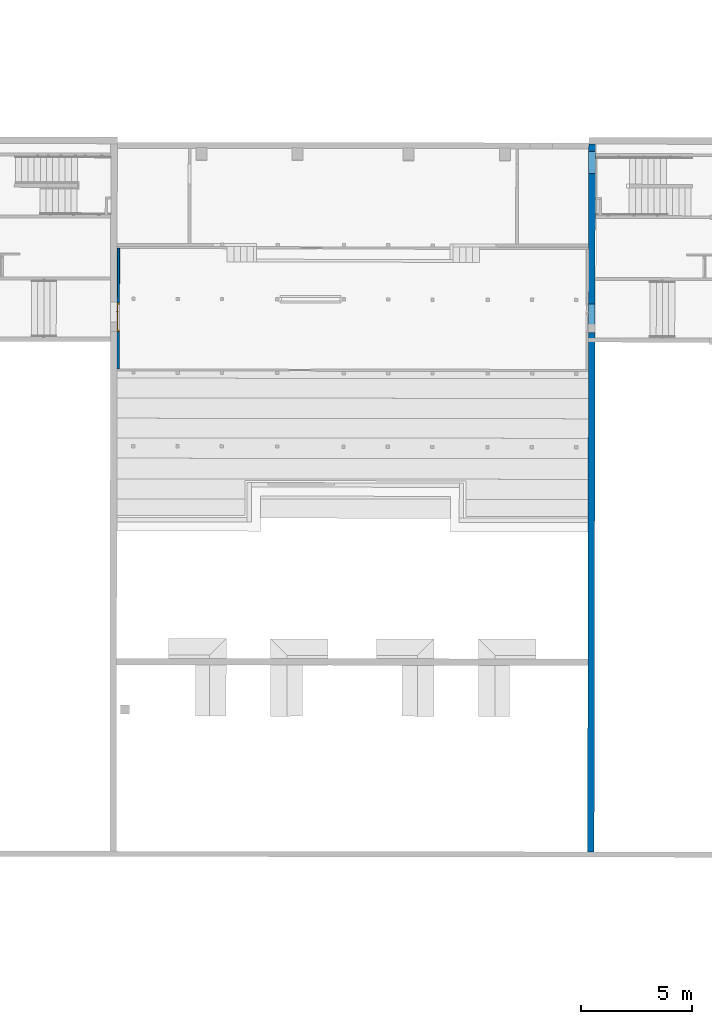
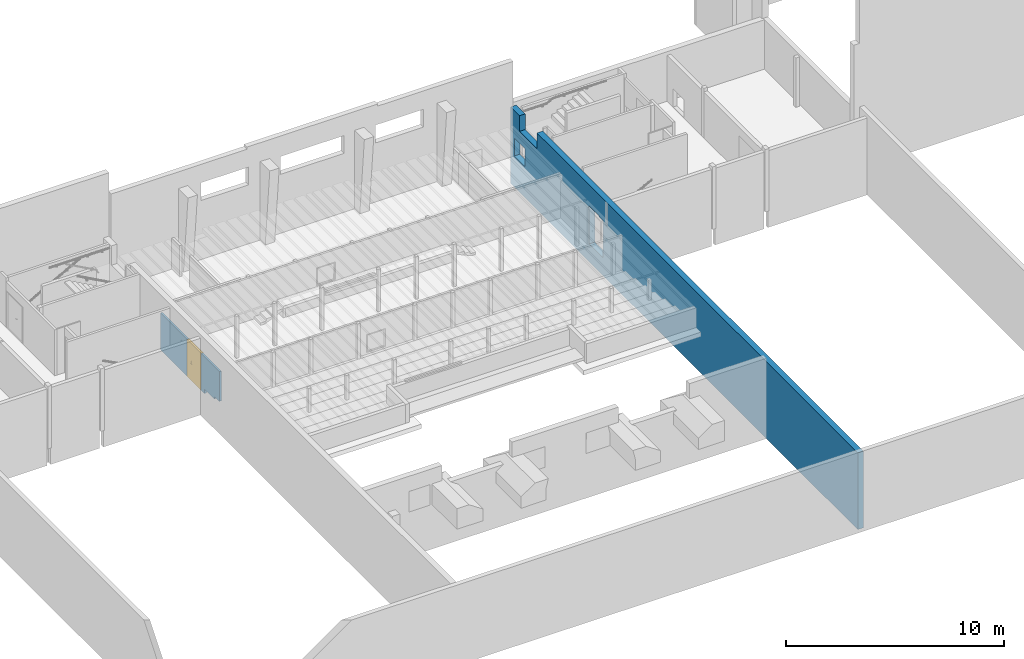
# One storey, part 13 of 24: 2 walls, 1 door, 1 opening.
"""IFC2X3 building model written with IfcOpenShell, lengths in metres."""

from ifc_helpers import new_model, entity, si_unit, converted_unit, derived_unit, direction, frame, frame_2d, origin, place, context, subcontext, project, spatial, rectangle, extrude, faceted_brep, source, transform, mapped, material, material_list, layer, layer_set, type_object, type_shapes, element, fill, save


model = new_model("IFC2X3")

# Units and contexts
model_context = context("Model", 3, precision=1e-05, world=origin(), true_north=direction((6.123233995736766e-17, 1.0)))
body_context = subcontext(model_context, "Body", "Model", "MODEL_VIEW")
ifc_project = project(units=[si_unit("LENGTHUNIT", "METRE"), si_unit("AREAUNIT", "SQUARE_METRE"), converted_unit("PLANEANGLEUNIT", "DEGREE", entity("IfcPlaneAngleMeasure", 0.017453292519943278), si_unit("PLANEANGLEUNIT", "RADIAN"), dimensions=[0, 0, 0, 0, 0, 0, 0]), derived_unit("THERMALTRANSMITTANCEUNIT", [(si_unit("MASSUNIT", "GRAM", prefix="KILO"), 1), (si_unit("THERMODYNAMICTEMPERATUREUNIT", "KELVIN"), -1), (si_unit("TIMEUNIT", "SECOND"), -3)])], contexts=[model_context])

# Site, building, storey
site_placement = place(None, frame((1253.6752467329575, 2072.143113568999, 91.49999999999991), z_axis=(0.0, 0.0, 1.0), x_axis=(0.7237211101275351, 0.6900925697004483, 0.0)))
site = spatial("IfcSite", under=ifc_project, at=site_placement, Name="Surface", CompositionType="ELEMENT")
building_placement = place(site_placement, origin())
building = spatial("IfcBuilding", under=site, at=building_placement, CompositionType="ELEMENT")
storey_placement = place(building_placement, frame((0.0, 0.0, -7.049999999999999)))
storey = spatial("IfcBuildingStorey", under=building, at=storey_placement, Name="R-1", CompositionType="ELEMENT", Elevation=-7.049999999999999)

# Wall
ifc_material_1 = material(Name="OMD_Béton blanc")
ifc_layer_1 = layer(ifc_material_1, 0.29999999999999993)
ifc_layer_set_1 = layer_set([ifc_layer_1], Name="Mur de base:MUR 30")
wall_type_1 = type_object("IfcWallType", Name="Mur de base:MUR 30", PredefinedType="STANDARD", material=ifc_layer_set_1)
wall_1_placement = place(storey_placement, frame((191.5584132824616, 3.095780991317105, -1.0), z_axis=(0.0, 0.0, 1.0), x_axis=(-0.6913353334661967, -0.7225340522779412, 0.0)))
element("IfcWall", 1, at=wall_1_placement, inside=storey, type_object=wall_type_1, Name="Mur de base:MUR 30", ObjectType="Mur de base:MUR 30", context=body_context, shape_type="Brep", body=[
    faceted_brep([(0.0, -0.14999999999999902, 0.0), (23.247325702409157, -0.15000000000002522, 0.0), (23.547325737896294, -0.14999999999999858, 0.0), (31.957326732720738, -0.15000000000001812, 0.0), (31.957326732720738, -0.15000000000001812, 4.299999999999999), (2.410191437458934, -0.150000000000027, 4.299999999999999), (2.410191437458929, -0.15000000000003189, 3.42), (0.8202097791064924, -0.15000000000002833, 3.42), (0.8202097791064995, -0.15000000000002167, 4.299999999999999), (0.0, -0.14999999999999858, 4.299999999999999), (8.509855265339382, -0.15000000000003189, 3.0850000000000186), (8.509855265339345, -0.1499999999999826, 1.0), (8.134855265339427, -0.15000000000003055, 1.0), (7.574855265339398, -0.15000000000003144, 1.0), (7.219855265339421, -0.15000000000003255, 1.0), (7.2198552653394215, -0.15000000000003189, 3.1340000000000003), (8.134855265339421, -0.15000000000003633, 3.1340000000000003), (8.13485526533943, -0.15000000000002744, 3.0850000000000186), (1.3371080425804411, -0.15000000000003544, 2.75), (1.3371080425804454, -0.15000000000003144, 1.7499999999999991), (0.33710804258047, -0.15000000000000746, 1.7499999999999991), (0.33710804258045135, -0.15000000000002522, 2.75), (31.957180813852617, 0.14999999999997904, 0.0), (0.00026584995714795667, 0.14999999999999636, 0.0), (0.0002658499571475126, 0.14999999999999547, 4.299999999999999), (0.820209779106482, 0.14999999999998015, 4.299999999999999), (0.8202097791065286, 0.1499999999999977, 3.42), (2.410191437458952, 0.1499999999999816, 3.42), (2.4101914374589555, 0.14999999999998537, 4.299999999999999), (31.957180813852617, 0.14999999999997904, 4.299999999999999), (8.509855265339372, 0.14999999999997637, 1.0), (8.509855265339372, 0.14999999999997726, 3.0850000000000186), (8.13485526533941, 0.15000000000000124, 3.0850000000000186), (8.134855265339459, 0.14999999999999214, 3.1340000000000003), (7.219855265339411, 0.15000000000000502, 3.1340000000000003), (7.219855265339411, 0.15000000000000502, 1.0), (7.574855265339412, 0.15000000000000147, 1.0), (8.13485526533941, 0.15000000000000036, 1.0), (1.3371080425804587, 0.15000000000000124, 1.7499999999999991), (1.337108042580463, 0.15000000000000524, 2.75), (0.33710804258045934, 0.15000000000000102, 2.75), (0.33710804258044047, 0.15000000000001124, 1.7499999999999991)], [[[0, 1, 2, 3, 4, 5, 6, 7, 8, 9], [10, 11, 12, 13, 14, 15, 16, 17], [18, 19, 20, 21]], [[22, 23, 24, 25, 26, 27, 28, 29], [30, 31, 32, 33, 34, 35, 36, 37], [38, 39, 40, 41]], [[4, 29, 28, 5]], [[3, 2, 1, 0, 23, 22]], [[4, 3, 22, 29]], [[27, 6, 5, 28]], [[7, 26, 25, 8]], [[6, 27, 26, 7]], [[31, 10, 17, 32]], [[10, 31, 30, 11]], [[11, 30, 37, 36, 35, 14, 13, 12]], [[16, 33, 32, 17]], [[14, 35, 34, 15]], [[33, 16, 15, 34]], [[9, 24, 23, 0]], [[18, 39, 38, 19]], [[19, 38, 41, 20]], [[20, 41, 40, 21]], [[39, 18, 21, 40]], [[24, 9, 8, 25]]]),
])

# Wall, opening, door
ifc_material_2 = material(Name="OMD_Cloison 100mm CF1h")
ifc_layer_2 = layer(ifc_material_2, 0.1)
ifc_layer_set_2 = layer_set([ifc_layer_2], Name="Mur de base:Cloison 100mm CF1h")
wall_type_2 = type_object("IfcWallType", Name="Mur de base:Cloison 100mm CF1h", PredefinedType="STANDARD", material=ifc_layer_set_2)
wall_2_placement = place(storey_placement, frame((172.82909930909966, 14.439826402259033, 0.0), z_axis=(0.0, 0.0, 1.0), x_axis=(-0.6919753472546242, -0.7219211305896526, 0.0)))
wall_2 = element("IfcWall", 2, at=wall_2_placement, inside=storey, type_object=wall_type_2, Name="Mur de base:Cloison 100mm CF1h", ObjectType="Mur de base:Cloison 100mm CF1h", context=body_context, shape_type="Brep", body=[
    faceted_brep([(0.0, -0.04999999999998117, 2.06199999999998), (0.0, -0.04999999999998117, 0.0), (2.469999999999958, -0.04999999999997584, 0.0), (2.469999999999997, -0.049999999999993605, 2.06199999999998), (2.4700000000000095, 0.04999999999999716, 0.0), (2.470000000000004, 0.05000000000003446, 2.06199999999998), (0.0, 0.05000000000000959, 2.06199999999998), (0.0, 0.050000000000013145, 0.0)], [[[0, 1, 2, 3]], [[3, 2, 4, 5]], [[1, 0, 6, 7]], [[1, 7, 4, 2]], [[6, 0, 3, 5]], [[7, 6, 5, 4]]]),
    faceted_brep([(5.4322327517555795, 0.05000000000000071, 2.06199999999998), (5.4322327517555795, 0.05000000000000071, 0.39523033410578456), (4.969361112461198, 0.05000000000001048, 0.39566373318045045), (4.969230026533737, 0.0500000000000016, 0.2556637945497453), (4.048519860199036, 0.05000000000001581, 0.2565258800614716), (4.048279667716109, 0.0500000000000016, 0.0), (3.7400000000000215, 0.05000000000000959, 0.0), (3.7400000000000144, 0.05000000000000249, 2.06199999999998), (5.432370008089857, -0.05000000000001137, 2.06199999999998), (5.432370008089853, -0.0500000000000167, 0.395230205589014), (3.7400000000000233, -0.05000000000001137, 0.0), (3.740000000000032, -0.05000000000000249, 2.06199999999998), (4.048519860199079, -0.04999999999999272, 0.2565258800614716), (4.048279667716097, -0.04999999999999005, 0.0), (4.969230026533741, -0.05000000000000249, 0.2556637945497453), (4.969361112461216, -0.04999999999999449, 0.39566373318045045)], [[[0, 1, 2, 3, 4, 5, 6, 7]], [[8, 9, 1, 0]], [[10, 11, 7, 6]], [[12, 13, 5, 4]], [[14, 12, 4, 3]], [[15, 14, 3, 2]], [[9, 15, 2, 1]], [[8, 0, 7, 11]], [[5, 13, 10, 6]], [[9, 8, 11, 10, 13, 12, 14, 15]]]),
])
opening_placement = place(wall_2_placement, frame((3.7399999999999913, 0.050000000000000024, 0.0)))
opening = element("IfcOpeningElement", 3, at=opening_placement, cuts=wall_2, Name="Tierce (R):1.20m x 2.04m:1", ObjectType="Opening", context=body_context, shape_type="SweptSolid", body=[
    extrude(rectangle(XDim=2.0749999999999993, YDim=1.2699999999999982, at=frame_2d((1.0374999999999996, 0.6349999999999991), x_axis=(1.0, 0.0))), frame((0.0, 0.0, 0.0), z_axis=(0.0, -1.0, 0.0), x_axis=(0.0, 0.0, 1.0)), (0.0, 0.0, 1.0), 0.09999999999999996),
])
ifc_material_3 = material(Name="Porte - Poignée")
ifc_material_4 = material(Name="OMD_RAL1032")
ifc_material_list = material_list([ifc_material_3, ifc_material_4])
door_style = type_object("IfcDoorStyle", Name="Tierce (R):1.20m x 2.04m", ConstructionType="NOTDEFINED", OperationType="NOTDEFINED", ParameterTakesPrecedence=False, Sizeable=False, material=ifc_material_list)
shared_shape = source(origin(), body_context, "Body", "Brep", [
    faceted_brep([(0.3879747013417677, 0.036999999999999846, 1.0077804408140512), (0.3839999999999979, 0.036999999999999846, 1.0069999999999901), (0.38399999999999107, 0.036999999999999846, 0.9929999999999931), (0.3879747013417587, 0.036999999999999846, 0.9922195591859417), (0.39202529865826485, 0.036999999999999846, 0.9922195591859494), (0.3960000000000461, 0.036999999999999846, 0.9930000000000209), (0.39600000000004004, 0.036999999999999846, 1.0069999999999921), (0.39202529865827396, 0.036999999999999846, 1.0077804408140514), (0.3960000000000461, 0.05948520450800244, 0.9930000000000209), (0.39600000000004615, 0.059485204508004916, 1.0069999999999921), (0.3920252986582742, 0.061131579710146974, 1.0077804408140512), (0.4058389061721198, 0.07494518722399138, 1.0077804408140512), (0.40416109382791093, 0.07899578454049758, 1.0077804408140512), (0.38797470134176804, 0.062809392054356, 1.0077804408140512), (0.49568474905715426, 0.06846731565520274, 1.0077804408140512), (0.4985489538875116, 0.07133152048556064, 1.007780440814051), (0.49088468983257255, 0.07899578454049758, 1.007780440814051), (0.48920687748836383, 0.07494518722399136, 1.0077804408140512), (0.3839999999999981, 0.06445576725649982, 1.0069999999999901), (0.38399999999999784, 0.06445576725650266, 0.9929999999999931), (0.38797470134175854, 0.06280939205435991, 0.9922195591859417), (0.404161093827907, 0.07899578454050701, 0.9922195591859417), (0.4058389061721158, 0.07494518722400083, 0.9922195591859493), (0.39202529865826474, 0.06113157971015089, 0.9922195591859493), (0.49854895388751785, 0.07133152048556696, 0.9922195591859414), (0.49568474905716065, 0.0684673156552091, 0.9922195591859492), (0.4892068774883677, 0.0749451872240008, 0.9922195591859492), (0.4908846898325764, 0.078995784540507, 0.9922195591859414), (0.40748528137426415, 0.0709704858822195, 0.9930000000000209), (0.40748528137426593, 0.07097048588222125, 1.0069999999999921), (0.4025147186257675, 0.08297048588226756, 1.0069999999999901), (0.4025147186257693, 0.08297048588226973, 0.9929999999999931), (0.447522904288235, 0.0709704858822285, 0.9930000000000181), (0.48756050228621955, 0.0709704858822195, 0.9930000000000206), (0.48756050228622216, 0.07097048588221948, 1.006999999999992), (0.4475228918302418, 0.07097048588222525, 1.006999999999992), (0.44752289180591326, 0.07712492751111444, 1.0078781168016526), (0.492531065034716, 0.0829704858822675, 1.00699999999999), (0.452600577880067, 0.08297048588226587, 1.0069999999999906), (0.4925310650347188, 0.08297048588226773, 0.9929999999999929), (0.4424452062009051, 0.0829704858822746, 0.992999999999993), (0.4475228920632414, 0.07712492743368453, 0.992121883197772), (0.4928742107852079, 0.06565677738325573, 0.9930000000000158), (0.501359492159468, 0.07414205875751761, 0.9929999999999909), (0.5013594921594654, 0.07414205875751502, 1.006999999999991), (0.49287421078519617, 0.06565677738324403, 1.00699999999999)], [[[0, 1, 2, 3, 4, 5, 6, 7]], [[6, 5, 8, 9]], [[9, 10, 7, 6]], [[10, 11, 12, 13, 0, 7]], [[14, 15, 16, 17]], [[13, 18, 1, 0]], [[2, 1, 18, 19]], [[19, 20, 3, 2]], [[20, 21, 22, 23, 4, 3]], [[24, 25, 26, 27]], [[23, 8, 5, 4]], [[9, 8, 28, 29]], [[29, 11, 10, 9]], [[12, 30, 18, 13]], [[19, 18, 30, 31]], [[31, 21, 20, 19]], [[22, 28, 8, 23]], [[29, 28, 32, 33, 34, 35]], [[11, 35, 36]], [[16, 37, 38]], [[30, 12, 38]], [[38, 12, 36]], [[36, 35, 17]], [[17, 16, 36]], [[35, 11, 29]], [[34, 17, 35]], [[11, 36, 12]], [[38, 36, 16]], [[31, 30, 38, 37, 39, 40]], [[40, 41, 21]], [[41, 40, 27]], [[21, 31, 40]], [[39, 27, 40]], [[41, 32, 22]], [[22, 21, 41]], [[26, 32, 41]], [[28, 22, 32]], [[32, 26, 33]], [[26, 41, 27]], [[42, 25, 24, 43, 44, 15, 14, 45]], [[34, 33, 42, 45]], [[45, 14, 17, 34]], [[15, 44, 37, 16]], [[39, 37, 44, 43]], [[43, 24, 27, 39]], [[25, 42, 33, 26]]]),
    faceted_brep([(0.3879747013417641, -0.013000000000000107, 1.007780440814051), (0.39202529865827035, -0.013000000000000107, 1.0077804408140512), (0.39600000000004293, -0.013000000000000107, 1.0069999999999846), (0.3960000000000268, -0.013000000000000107, 0.993000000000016), (0.3920252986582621, -0.013000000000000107, 0.9922195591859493), (0.38797470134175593, -0.013000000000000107, 0.9922195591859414), (0.3839999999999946, -0.013000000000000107, 0.9929999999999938), (0.383999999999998, -0.013000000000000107, 1.006999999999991), (0.38399999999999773, -0.04065095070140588, 1.006999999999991), (0.3879747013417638, -0.03900457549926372, 1.007780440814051), (0.4040235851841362, -0.055053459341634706, 1.007780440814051), (0.40570139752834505, -0.05100286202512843, 1.0077804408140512), (0.39202529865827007, -0.03732676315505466, 1.0077804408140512), (0.4985218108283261, -0.04738919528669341, 1.0077804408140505), (0.4956576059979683, -0.044524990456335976, 1.007780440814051), (0.489179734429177, -0.05100286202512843, 1.007780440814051), (0.49085754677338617, -0.055053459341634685, 1.0077804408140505), (0.39600000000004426, -0.035680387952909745, 1.00699999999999), (0.3960000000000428, -0.03568038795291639, 0.993000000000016), (0.39202529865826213, -0.03732676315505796, 0.9922195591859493), (0.4057013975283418, -0.05100286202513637, 0.9922195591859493), (0.40402358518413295, -0.05505345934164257, 0.9922195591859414), (0.387974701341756, -0.03900457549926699, 0.9922195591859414), (0.49565760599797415, -0.04452499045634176, 0.9922195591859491), (0.4985218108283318, -0.04738919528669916, 0.9922195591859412), (0.49085754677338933, -0.05505345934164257, 0.9922195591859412), (0.4891797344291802, -0.05100286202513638, 0.9922195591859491), (0.38399999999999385, -0.04065095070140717, 0.9929999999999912), (0.4023772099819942, -0.05902816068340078, 1.006999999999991), (0.4073477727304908, -0.04702816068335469, 1.00699999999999), (0.40734777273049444, -0.047028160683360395, 0.993000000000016), (0.40237720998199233, -0.05902816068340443, 0.9929999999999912), (0.4423076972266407, -0.05902816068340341, 1.0069999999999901), (0.4474405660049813, -0.05318280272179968, 1.0078781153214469), (0.49250392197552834, -0.05902816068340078, 1.0069999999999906), (0.44744056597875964, -0.04702816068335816, 1.006999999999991), (0.48753335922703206, -0.047028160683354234, 1.0069999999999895), (0.48753335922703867, -0.04702816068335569, 0.9930000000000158), (0.4474405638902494, -0.047028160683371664, 0.9930000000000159), (0.44744056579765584, -0.053182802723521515, 0.9921218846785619), (0.4925039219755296, -0.05902816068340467, 0.992999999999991), (0.45257343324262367, -0.05902816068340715, 0.9929999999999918), (0.49284706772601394, -0.04171445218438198, 1.006999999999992), (0.5013323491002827, -0.05019973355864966, 1.0069999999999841), (0.5013323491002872, -0.050199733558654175, 0.9929999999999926), (0.4928470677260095, -0.04171445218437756, 0.9930000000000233)], [[[0, 1, 2, 3, 4, 5, 6, 7]], [[8, 9, 0, 7]], [[9, 10, 11, 12, 1, 0]], [[13, 14, 15, 16]], [[12, 17, 2, 1]], [[3, 2, 17, 18]], [[18, 19, 4, 3]], [[19, 20, 21, 22, 5, 4]], [[23, 24, 25, 26]], [[22, 27, 6, 5]], [[7, 6, 27, 8]], [[28, 10, 9, 8]], [[11, 29, 17, 12]], [[18, 17, 29, 30]], [[30, 20, 19, 18]], [[21, 31, 27, 22]], [[8, 27, 31, 28]], [[32, 33, 10]], [[33, 32, 16]], [[10, 28, 32]], [[34, 16, 32]], [[33, 35, 11]], [[11, 10, 33]], [[15, 35, 33]], [[29, 11, 35]], [[35, 15, 36]], [[15, 33, 16]], [[30, 29, 35, 36, 37, 38]], [[20, 38, 39]], [[25, 40, 41]], [[31, 21, 41]], [[41, 21, 39]], [[39, 38, 26]], [[26, 25, 39]], [[38, 20, 30]], [[37, 26, 38]], [[20, 39, 21]], [[41, 39, 25]], [[28, 31, 41, 40, 34, 32]], [[42, 14, 13, 43, 44, 24, 23, 45]], [[43, 13, 16, 34]], [[14, 42, 36, 15]], [[37, 36, 42, 45]], [[45, 23, 26, 37]], [[24, 44, 40, 25]], [[34, 40, 44, 43]]]),
    faceted_brep([(0.400352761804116, 0.03199999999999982, 0.8660039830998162), (0.41000000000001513, 0.03199999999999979, 0.8700000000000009), (0.4100000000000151, 0.03199999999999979, 1.0800000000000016), (0.40035276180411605, 0.03199999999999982, 1.0839960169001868), (0.39000000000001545, 0.031999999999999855, 1.0853589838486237), (0.3796472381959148, 0.03199999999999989, 1.0839960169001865), (0.37000000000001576, 0.03199999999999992, 1.0800000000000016), (0.3700000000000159, 0.03199999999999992, 0.8700000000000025), (0.3796472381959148, 0.03199999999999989, 0.866003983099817), (0.3900000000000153, 0.031999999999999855, 0.8646410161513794), (0.40035276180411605, 0.03699999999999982, 1.0839960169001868), (0.41000000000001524, 0.0369999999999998, 1.0800000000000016), (0.41000000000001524, 0.0369999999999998, 0.8700000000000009), (0.40035276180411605, 0.03699999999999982, 0.8660039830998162), (0.3900000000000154, 0.03699999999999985, 0.8646410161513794), (0.3796472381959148, 0.03699999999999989, 0.866003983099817), (0.37000000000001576, 0.03699999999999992, 0.8700000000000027), (0.37000000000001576, 0.03699999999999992, 1.0800000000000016), (0.3796472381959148, 0.03699999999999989, 1.0839960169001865), (0.39000000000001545, 0.03699999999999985, 1.0853589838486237)], [[[0, 1, 2, 3, 4, 5, 6, 7, 8, 9]], [[10, 11, 12, 13, 14, 15, 16, 17, 18, 19]], [[11, 10, 3, 2]], [[3, 10, 19, 4]], [[19, 18, 5, 4]], [[18, 17, 6, 5]], [[7, 6, 17, 16]], [[16, 15, 8, 7]], [[8, 15, 14, 9]], [[14, 13, 0, 9]], [[13, 12, 1, 0]], [[2, 1, 12, 11]]]),
    faceted_brep([(0.4003527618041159, -0.01300000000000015, 0.8660039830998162), (0.4100000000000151, -0.013000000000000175, 0.8700000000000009), (0.41000000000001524, -0.013000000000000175, 1.0800000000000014), (0.4003527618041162, -0.01300000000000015, 1.0839960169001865), (0.3900000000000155, -0.013000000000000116, 1.0853589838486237), (0.37964723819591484, -0.013000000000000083, 1.0839960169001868), (0.37000000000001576, -0.013000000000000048, 1.0800000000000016), (0.37000000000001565, -0.013000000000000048, 0.8700000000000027), (0.3796472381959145, -0.013000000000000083, 0.8660039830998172), (0.39000000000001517, -0.013000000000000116, 0.8646410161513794), (0.4003527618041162, -0.008000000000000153, 1.0839960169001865), (0.4100000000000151, -0.008000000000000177, 1.0800000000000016), (0.4100000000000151, -0.008000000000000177, 0.8700000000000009), (0.4003527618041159, -0.008000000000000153, 0.8660039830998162), (0.39000000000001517, -0.008000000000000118, 0.8646410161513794), (0.3796472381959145, -0.008000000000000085, 0.8660039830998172), (0.37000000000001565, -0.00800000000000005, 0.8700000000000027), (0.37000000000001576, -0.00800000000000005, 1.0800000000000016), (0.37964723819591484, -0.008000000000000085, 1.0839960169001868), (0.3900000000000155, -0.008000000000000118, 1.0853589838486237)], [[[0, 1, 2, 3, 4, 5, 6, 7, 8, 9]], [[10, 11, 12, 13, 14, 15, 16, 17, 18, 19]], [[16, 15, 8, 7]], [[8, 15, 14, 9]], [[14, 13, 0, 9]], [[13, 12, 1, 0]], [[2, 1, 12, 11]], [[11, 10, 3, 2]], [[3, 10, 19, 4]], [[19, 18, 5, 4]], [[18, 17, 6, 5]], [[7, 6, 17, 16]]]),
    faceted_brep([(1.2700000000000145, 0.0, 0.0), (1.2800000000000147, 0.0, 0.0), (1.2800000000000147, -0.007999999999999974, 0.0), (1.2350000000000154, -0.007999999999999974, 0.0), (1.2350000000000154, 0.032000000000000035, 0.0), (1.2200000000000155, 0.032000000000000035, 0.0), (1.2200000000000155, 0.10800000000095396, 0.0), (1.2800000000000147, 0.10800000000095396, 0.0), (1.2800000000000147, 0.10000000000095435, 0.0), (1.2700000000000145, 0.10000000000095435, 0.0), (1.2700000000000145, 0.10000000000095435, 2.0749999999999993), (1.2700000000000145, 0.0, 2.0749999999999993), (1.2800000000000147, 0.10000000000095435, 2.084999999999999), (-0.009999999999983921, 0.10000000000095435, 2.084999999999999), (-0.009999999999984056, 0.10000000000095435, 0.0), (0.0, 0.10000000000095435, 0.0), (0.0, 0.10000000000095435, 2.0749999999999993), (1.280000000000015, 0.10800000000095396, 2.084999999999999), (1.2200000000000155, 0.10800000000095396, 2.0250000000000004), (0.050000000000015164, 0.10800000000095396, 2.0250000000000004), (0.050000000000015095, 0.10800000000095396, 0.0), (-0.009999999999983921, 0.10800000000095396, 0.0), (-0.009999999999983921, 0.10800000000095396, 2.084999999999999), (1.2200000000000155, 0.032000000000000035, 2.0250000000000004), (1.2350000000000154, 0.032000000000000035, 2.04), (0.035000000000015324, 0.032000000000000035, 2.04), (0.035000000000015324, 0.032000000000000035, 0.0), (0.050000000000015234, 0.032000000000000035, 0.0), (0.050000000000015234, 0.032000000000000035, 2.0250000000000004), (1.2350000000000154, -0.007999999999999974, 2.04), (1.2800000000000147, -0.007999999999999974, 2.084999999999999), (-0.009999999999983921, -0.007999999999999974, 2.084999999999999), (-0.009999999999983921, -0.007999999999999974, 0.0), (0.035000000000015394, -0.007999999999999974, 0.0), (0.035000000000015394, -0.007999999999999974, 2.04), (1.280000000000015, 0.0, 2.084999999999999), (0.0, 0.0, 2.0749999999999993), (0.0, 0.0, 0.0), (-0.009999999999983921, 0.0, 0.0), (-0.009999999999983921, 0.0, 2.084999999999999)], [[[0, 1, 2, 3, 4, 5, 6, 7, 8, 9]], [[9, 10, 11, 0]], [[8, 12, 13, 14, 15, 16, 10, 9]], [[7, 17, 12, 8]], [[6, 18, 19, 20, 21, 22, 17, 7]], [[5, 23, 18, 6]], [[4, 24, 25, 26, 27, 28, 23, 5]], [[3, 29, 24, 4]], [[2, 30, 31, 32, 33, 34, 29, 3]], [[1, 35, 30, 2]], [[0, 11, 36, 37, 38, 39, 35, 1]], [[16, 15, 37, 36]], [[37, 15, 14, 21, 20, 27, 26, 33, 32, 38]], [[22, 21, 14, 13]], [[28, 27, 20, 19]], [[34, 33, 26, 25]], [[39, 38, 32, 31]], [[10, 16, 36, 11]], [[17, 22, 13, 12]], [[23, 28, 19, 18]], [[29, 34, 25, 24]], [[35, 39, 31, 30]]]),
    faceted_brep([(0.035000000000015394, -0.007999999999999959, 2.04), (0.035000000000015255, -0.007999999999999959, 0.0), (0.3350000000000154, -0.007999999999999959, 0.0), (0.33500000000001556, -0.007999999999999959, 2.04), (0.035000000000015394, 0.032000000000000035, 2.04), (0.33500000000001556, 0.032000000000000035, 2.04), (0.3350000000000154, 0.032000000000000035, 0.0), (0.035000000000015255, 0.032000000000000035, 0.0)], [[[0, 1, 2, 3]], [[4, 5, 6, 7]], [[3, 5, 4, 0]], [[2, 6, 5, 3]], [[1, 7, 6, 2]], [[0, 4, 7, 1]]]),
    faceted_brep([(1.2350000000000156, -0.007999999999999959, 0.0), (1.2350000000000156, -0.007999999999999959, 2.0399999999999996), (0.33500000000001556, -0.007999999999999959, 2.0399999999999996), (0.3350000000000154, -0.007999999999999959, 0.0), (1.2350000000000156, 0.032000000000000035, 0.0), (0.3350000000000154, 0.032000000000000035, 0.0), (0.33500000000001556, 0.032000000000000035, 2.0399999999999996), (1.2350000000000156, 0.032000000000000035, 2.0399999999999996)], [[[0, 1, 2, 3]], [[4, 5, 6, 7]], [[3, 5, 4, 0]], [[2, 6, 5, 3]], [[1, 7, 6, 2]], [[0, 4, 7, 1]]]),
])
type_shapes(door_style, [shared_shape])
door_placement = place(opening_placement, frame((-1.2699999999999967, -0.10000000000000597, 0.0)))
door = element("IfcDoor", 4, at=door_placement, inside=storey, type_object=door_style, material=ifc_material_list, Name="Tierce (R):1.20m x 2.04m", ObjectType="Tierce (R):1.20m x 2.04m", OverallHeight=2.0749999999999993, OverallWidth=1.2700000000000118, context=body_context, shape_type="MappedRepresentation", body=[
    mapped(shared_shape, transform((0.0, 0.0, 0.0), scale=1.0)),
])
fill(opening, door)

save(model, "model.ifc")
